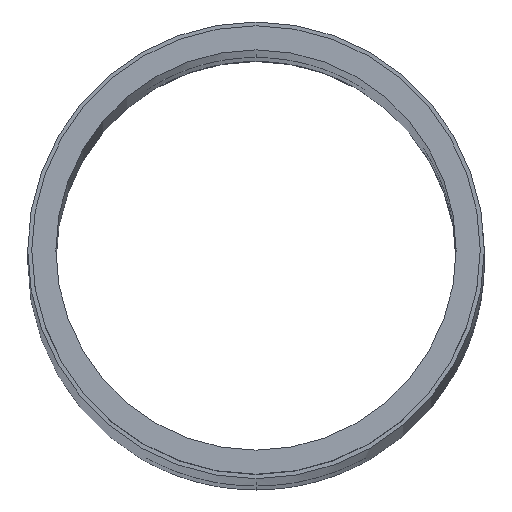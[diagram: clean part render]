
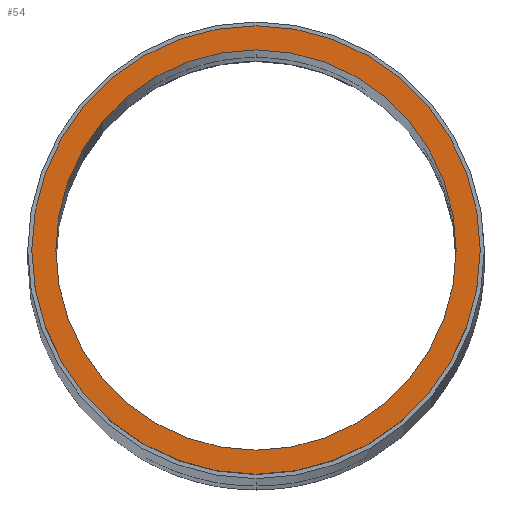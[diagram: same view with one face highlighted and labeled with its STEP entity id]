
A CAD part, top view. The second image highlights one B-rep face of the part: STEP entity #54.
In plain terms, the highlighted planar face has unit normal (0, 0, 1).
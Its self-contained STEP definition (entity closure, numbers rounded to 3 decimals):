
#42=FACE_BOUND('',#96,.F.);
#49=PLANE('',#645);
#54=ADVANCED_FACE('',(#42,#75),#49,.T.);
#75=FACE_OUTER_BOUND('',#97,.F.);
#96=EDGE_LOOP('',(#154,#155));
#97=EDGE_LOOP('',(#156,#157));
#154=ORIENTED_EDGE('',*,*,#506,.T.);
#155=ORIENTED_EDGE('',*,*,#499,.T.);
#156=ORIENTED_EDGE('',*,*,#498,.F.);
#157=ORIENTED_EDGE('',*,*,#497,.F.);
#397=CIRCLE('',#633,43.65);
#398=CIRCLE('',#634,43.65);
#399=CIRCLE('',#635,38.964);
#402=CIRCLE('',#638,38.964);
#497=EDGE_CURVE('',#582,#581,#397,.T.);
#498=EDGE_CURVE('',#581,#582,#398,.T.);
#499=EDGE_CURVE('',#625,#594,#399,.T.);
#506=EDGE_CURVE('',#594,#625,#402,.T.);
#581=VERTEX_POINT('',#766);
#582=VERTEX_POINT('',#767);
#594=VERTEX_POINT('',#779);
#625=VERTEX_POINT('',#810);
#633=AXIS2_PLACEMENT_3D('',#1620,#679,#680);
#634=AXIS2_PLACEMENT_3D('',#1621,#681,#682);
#635=AXIS2_PLACEMENT_3D('',#1622,#683,#684);
#638=AXIS2_PLACEMENT_3D('',#1629,#693,#694);
#645=AXIS2_PLACEMENT_3D('',#1650,#721,#722);
#679=DIRECTION('',(0.,0.,1.));
#680=DIRECTION('',(0.,-1.,0.));
#681=DIRECTION('',(0.,0.,1.));
#682=DIRECTION('',(0.,1.,0.));
#683=DIRECTION('',(0.,0.,1.));
#684=DIRECTION('',(0.,1.,0.));
#693=DIRECTION('',(0.,0.,1.));
#694=DIRECTION('',(0.,-1.,0.));
#721=DIRECTION('',(0.,0.,1.));
#722=DIRECTION('',(1.,0.,0.));
#766=CARTESIAN_POINT('',(1027.375,462.902,421.874));
#767=CARTESIAN_POINT('',(1027.375,375.602,421.874));
#779=CARTESIAN_POINT('',(1027.375,380.289,421.874));
#810=CARTESIAN_POINT('',(1027.375,458.216,421.874));
#1620=CARTESIAN_POINT('',(1027.375,419.252,421.874));
#1621=CARTESIAN_POINT('',(1027.375,419.252,421.874));
#1622=CARTESIAN_POINT('',(1027.375,419.252,421.874));
#1629=CARTESIAN_POINT('',(1027.375,419.252,421.874));
#1650=CARTESIAN_POINT('',(982.036,373.913,421.874));
